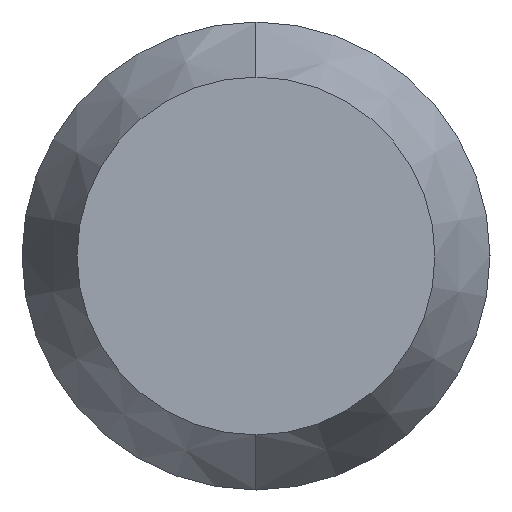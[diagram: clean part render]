
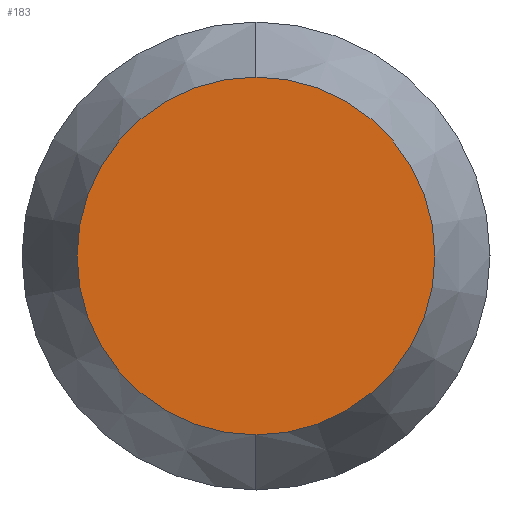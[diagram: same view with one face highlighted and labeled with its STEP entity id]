
A CAD part, left-side view. The second image highlights one B-rep face of the part: STEP entity #183.
In plain terms, the highlighted planar face has unit normal (-1, 0, 0).
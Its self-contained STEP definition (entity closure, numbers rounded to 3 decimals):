
#37 = DIRECTION ( 'NONE',  ( 1., 0., 0. ) ) ;
#146 = CIRCLE ( 'NONE', #673, 1.3 ) ;
#154 = EDGE_CURVE ( 'NONE', #220, #929, #146, .T. ) ;
#183 = ADVANCED_FACE ( 'NONE', ( #436 ), #528, .T. ) ;
#220 = VERTEX_POINT ( 'NONE', #615 ) ;
#254 = CARTESIAN_POINT ( 'NONE',  ( -5.5, 0., -1.3 ) ) ;
#262 = ORIENTED_EDGE ( 'NONE', *, *, #154, .F. ) ;
#293 = AXIS2_PLACEMENT_3D ( 'NONE', #386, #544, #761 ) ;
#305 = ORIENTED_EDGE ( 'NONE', *, *, #442, .F. ) ;
#314 = AXIS2_PLACEMENT_3D ( 'NONE', #587, #37, #327 ) ;
#327 = DIRECTION ( 'NONE',  ( 0., 0., -1. ) ) ;
#342 = CIRCLE ( 'NONE', #314, 1.3 ) ;
#386 = CARTESIAN_POINT ( 'NONE',  ( -5.5, 1.3, 0. ) ) ;
#436 = FACE_OUTER_BOUND ( 'NONE', #600, .T. ) ;
#442 = EDGE_CURVE ( 'NONE', #929, #220, #342, .T. ) ;
#528 = PLANE ( 'NONE',  #293 ) ;
#544 = DIRECTION ( 'NONE',  ( -1., 0., 0. ) ) ;
#587 = CARTESIAN_POINT ( 'NONE',  ( -5.5, 0., 0. ) ) ;
#600 = EDGE_LOOP ( 'NONE', ( #305, #262 ) ) ;
#615 = CARTESIAN_POINT ( 'NONE',  ( -5.5, 0., 1.3 ) ) ;
#666 = CARTESIAN_POINT ( 'NONE',  ( -5.5, 0., 0. ) ) ;
#673 = AXIS2_PLACEMENT_3D ( 'NONE', #666, #877, #815 ) ;
#761 = DIRECTION ( 'NONE',  ( 0., 0., 1. ) ) ;
#815 = DIRECTION ( 'NONE',  ( 0., 0., -1. ) ) ;
#877 = DIRECTION ( 'NONE',  ( 1., 0., 0. ) ) ;
#929 = VERTEX_POINT ( 'NONE', #254 ) ;
